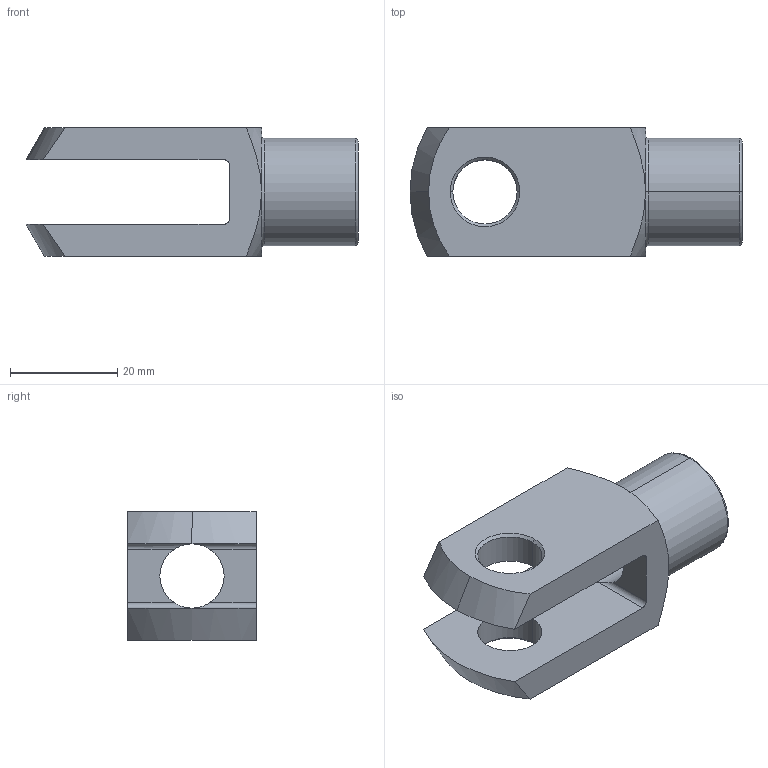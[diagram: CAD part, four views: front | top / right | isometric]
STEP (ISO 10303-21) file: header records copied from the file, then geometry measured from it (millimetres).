
FILE_DESCRIPTION (( 'STEP AP203' ), '1' );
FILE_NAME ('65635.W0122.step', '2014-01-17T13:05:48', ( 'User' ), ( '' ), 'SwSTEP 2.0', 'SolidWorks 2009', '' );
FILE_SCHEMA (( 'CONFIG_CONTROL_DESIGN' ));
Length unit declared in the file: millimetre
Products named in the file (1): 65635.W0122
Bounding box: 62 x 24 x 24 mm (x, y, z)
Volume: 15035.6 mm3; surface area: 7597.3 mm2
Topology: 1 solids, 1 shells, 39 faces, 93 edges, 56 vertices
Faces by surface type: cone 13, cylinder 12, plane 10, torus 4
Entity records: 1308 total; most frequent: CARTESIAN_POINT 313, DIRECTION 201, ORIENTED_EDGE 186, EDGE_CURVE 93, AXIS2_PLACEMENT_3D 84, VERTEX_POINT 56, EDGE_LOOP 45, CIRCLE 44
